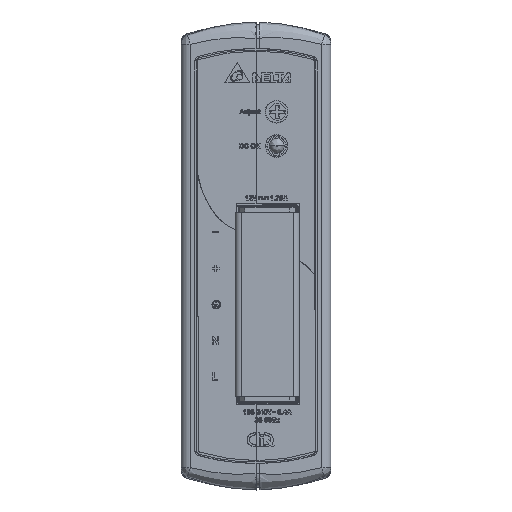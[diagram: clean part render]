
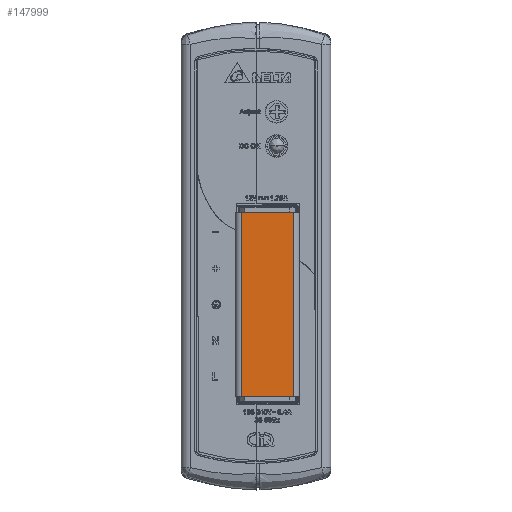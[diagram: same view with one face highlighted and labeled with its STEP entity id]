
A CAD part, top view. The second image highlights one B-rep face of the part: STEP entity #147999.
In plain terms, the highlighted planar face has unit normal (0, 0, 1) as drawn and (0, 1, 0) by its records, which use the part's own axes.
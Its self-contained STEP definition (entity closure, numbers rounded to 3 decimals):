
#147584=DIRECTION('',(-1.,0.,0.));
#147585=VECTOR('',#147584,11.15);
#147586=CARTESIAN_POINT('',(5.575,12.372,0.));
#147587=LINE('',#147586,#147585);
#147677=DIRECTION('',(0.,0.,1.));
#147678=VECTOR('',#147677,39.32);
#147679=CARTESIAN_POINT('',(-5.575,12.372,0.));
#147680=LINE('',#147679,#147678);
#147684=DIRECTION('',(0.,0.,1.));
#147685=VECTOR('',#147684,39.32);
#147686=CARTESIAN_POINT('',(5.575,12.372,0.));
#147687=LINE('',#147686,#147685);
#147771=DIRECTION('',(-1.,0.,0.));
#147772=VECTOR('',#147771,11.15);
#147773=CARTESIAN_POINT('',(5.575,12.372,39.32));
#147774=LINE('',#147773,#147772);
#147817=CARTESIAN_POINT('',(5.575,12.372,0.));
#147818=VERTEX_POINT('',#147817);
#147819=CARTESIAN_POINT('',(-5.575,12.372,0.));
#147820=VERTEX_POINT('',#147819);
#147841=CARTESIAN_POINT('',(5.575,12.372,39.32));
#147842=VERTEX_POINT('',#147841);
#147843=CARTESIAN_POINT('',(-5.575,12.372,39.32));
#147844=VERTEX_POINT('',#147843);
#147986=CARTESIAN_POINT('',(5.575,12.372,0.));
#147987=DIRECTION('',(0.,1.,0.));
#147988=DIRECTION('',(-1.,0.,0.));
#147989=AXIS2_PLACEMENT_3D('',#147986,#147987,#147988);
#147990=PLANE('',#147989);
#147991=ORIENTED_EDGE('',*,*,#147870,.F.);
#147993=ORIENTED_EDGE('',*,*,#147992,.T.);
#147995=ORIENTED_EDGE('',*,*,#147994,.T.);
#147996=ORIENTED_EDGE('',*,*,#147978,.F.);
#147997=EDGE_LOOP('',(#147991,#147993,#147995,#147996));
#147998=FACE_OUTER_BOUND('',#147997,.F.);
#147870=EDGE_CURVE('',#147818,#147820,#147587,.T.);
#147978=EDGE_CURVE('',#147820,#147844,#147680,.T.);
#147992=EDGE_CURVE('',#147818,#147842,#147687,.T.);
#147994=EDGE_CURVE('',#147842,#147844,#147774,.T.);
#147999=ADVANCED_FACE('',(#147998),#147990,.T.);
